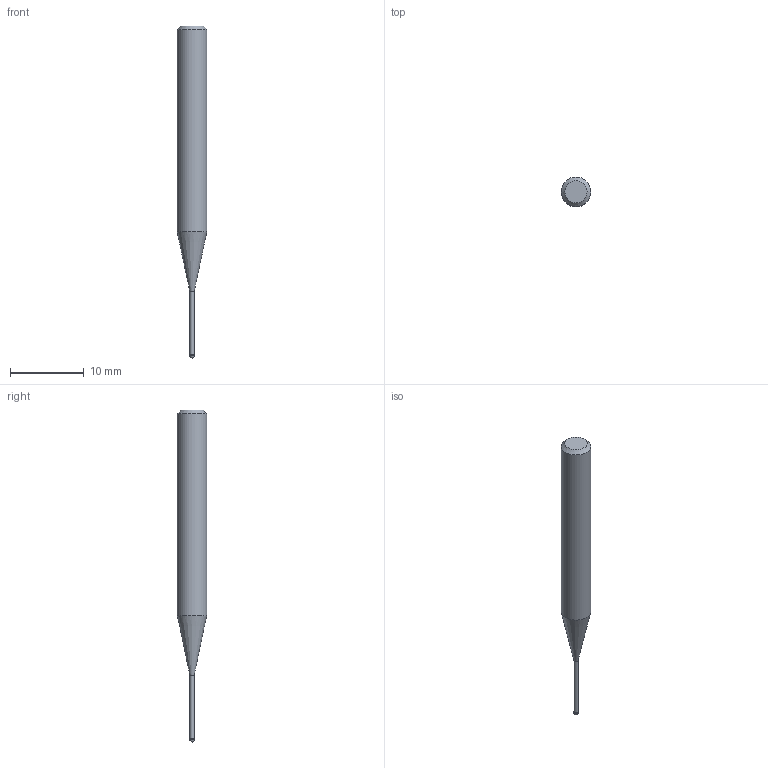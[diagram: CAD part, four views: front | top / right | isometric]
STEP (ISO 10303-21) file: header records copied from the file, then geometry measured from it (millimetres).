
FILE_DESCRIPTION((''),'2;1');
FILE_NAME('C:\Users\nsx150\AppData\Local\Temp\Mastercam 2021\3SYKECWX22\TEMP.step','2021-04-22T10:01:11',(''),(''),'STEP Write','Mastercam 2021 ... CNC Software, Inc.','');
FILE_SCHEMA(('AUTOMOTIVE_DESIGN'));
Length unit declared in the file: millimetre
Products named in the file (1): None
Bounding box: 4 x 4 x 45 mm (x, y, z)
Volume: 390.8 mm3; surface area: 434.9 mm2
Topology: 2 solids, 2 shells, 9 faces, 14 edges, 8 vertices
Faces by surface type: plane 3, cylinder 3, cone 2, sphere 1
Full cylindrical faces by diameter (mm): 0.56 x1, 0.6 x1, 4 x1
Entity records: 211 total; most frequent: DIRECTION 36, CARTESIAN_POINT 25, AXIS2_PLACEMENT_3D 18, ORIENTED_EDGE 14, EDGE_LOOP 14, STYLED_ITEM 12, ADVANCED_FACE 9, FACE_BOUND 8
